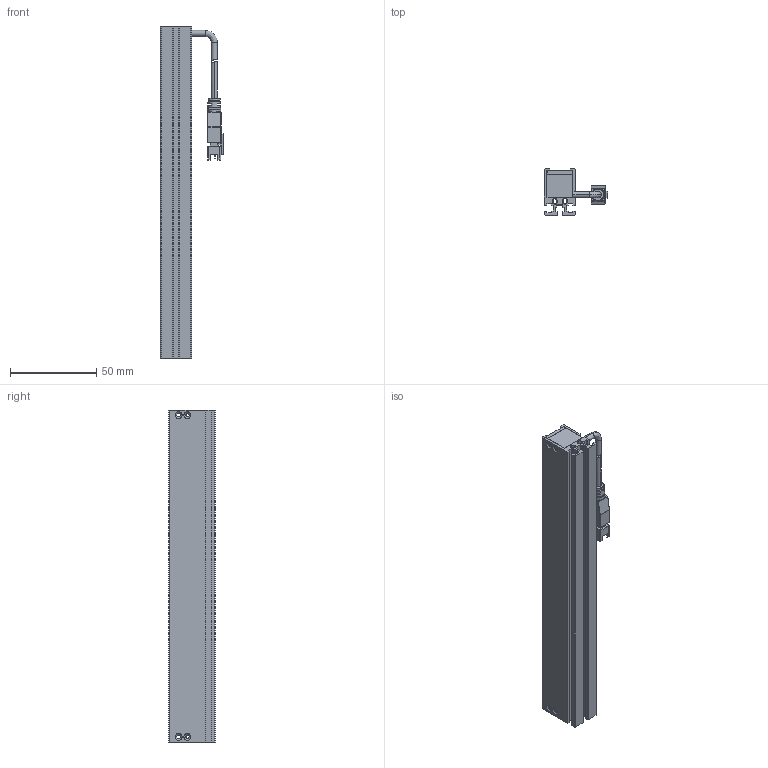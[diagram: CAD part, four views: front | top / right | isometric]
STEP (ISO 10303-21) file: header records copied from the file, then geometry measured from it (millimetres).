
FILE_DESCRIPTION (( 'STEP AP203' ), '1' );
FILE_NAME ('CST-2BS19218-¼òÒ×3DÍ¼.STEP', '2021-06-15T09:02:29', ( '' ), ( '' ), 'SwSTEP 2.0', 'SolidWorks 2018', '' );
FILE_SCHEMA (( 'CONFIG_CONTROL_DESIGN' ));
Length unit declared in the file: millimetre
Products named in the file (1): CST-2BS19218-潠眢3D芞
Bounding box: 36.55 x 27 x 192 mm (x, y, z)
Surface area: 54102.9 mm2 (no closed solid volume)
Topology: 0 solids, 10 shells, 496 faces, 1341 edges, 848 vertices
Faces by surface type: plane 255, cylinder 155, cone 52, bspline 28, torus 6
Entity records: 16116 total; most frequent: CARTESIAN_POINT 3726, ORIENTED_EDGE 2595, DIRECTION 2519, EDGE_CURVE 1321, LINE 877, VECTOR 877, VERTEX_POINT 848, AXIS2_PLACEMENT_3D 821
